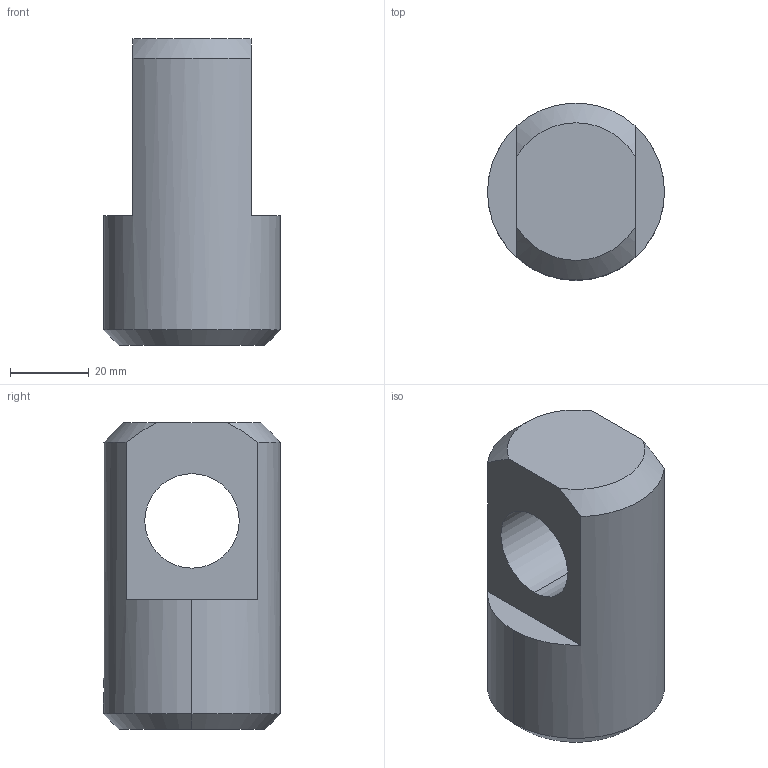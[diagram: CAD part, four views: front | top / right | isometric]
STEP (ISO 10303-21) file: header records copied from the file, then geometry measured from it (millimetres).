
FILE_DESCRIPTION (( 'STEP AP203' ), '1' );
FILE_NAME ('MJ3-GK.STEP', '2024-01-15T15:18:29', ( '' ), ( '' ), 'SwSTEP 2.0', 'SolidWorks 2022', '' );
FILE_SCHEMA (( 'CONFIG_CONTROL_DESIGN' ));
Length unit declared in the file: millimetre
Products named in the file (1): MJ3-GK
Bounding box: 45 x 45 x 78 mm (x, y, z)
Volume: 86245 mm3; surface area: 16449.1 mm2
Topology: 1 solids, 1 shells, 24 faces, 58 edges, 38 vertices
Faces by surface type: cylinder 10, plane 8, cone 6
Entity records: 1019 total; most frequent: CARTESIAN_POINT 367, DIRECTION 124, ORIENTED_EDGE 116, EDGE_CURVE 58, AXIS2_PLACEMENT_3D 51, VERTEX_POINT 38, EDGE_LOOP 30, CIRCLE 26
